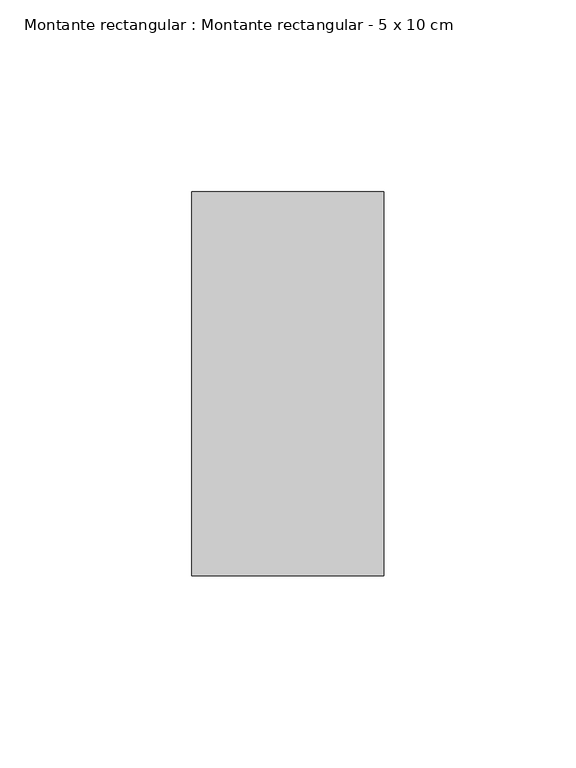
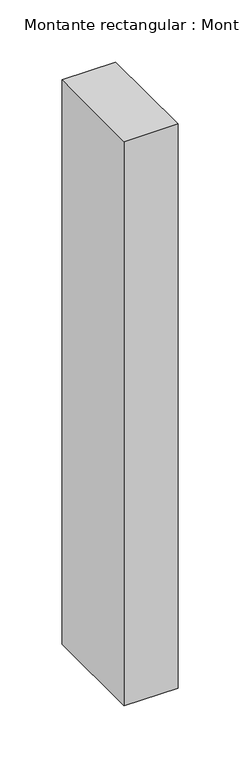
"""IFC4 building model written with IfcOpenShell, lengths in millimetres: member geometry, Montante rectangular : Montante rectangular - 5 x 10 cm."""

from ifc_helpers import new_model, si_unit, frame, origin, place, context, project, spatial, polyline, outline, extrude, source, transform, mapped, element, save


def montante_rectangular_montante_rectangular_5_x_10_cm_50bf92db(model_context):
    return source(origin(), model_context, "Body", "SweptSolid", [
        extrude(outline(polyline([(25.0, 50.0), (25.0, -50.0), (-25.0, -50.0), (-25.0, 50.0), (25.0, 50.0)])), frame((0.0, 0.0, -553.9080145), z_axis=(0.0, 0.0, 1.0), x_axis=(1.0, 0.0, 0.0)), (0.0, 0.0, 1.0), 553.9080145),
    ])


if __name__ == "__main__":
    model = new_model("IFC4")
    model_context = context("Model", 3, world=origin())
    ifc_project = project(units=[si_unit("LENGTHUNIT", "METRE", prefix="MILLI")], contexts=[model_context])
    site = spatial("IfcSite", under=ifc_project)
    building = spatial("IfcBuilding", under=site)
    placement = place(None, origin())
    montante_rectangular_montante_rectangular_5_x_10_cm_shape = montante_rectangular_montante_rectangular_5_x_10_cm_50bf92db(model_context)
    element("IfcMember", 1, ObjectType="Montante rectangular : Montante rectangular - 5 x 10 cm", at=placement, inside=building, context=model_context, shape_type="MappedRepresentation", body=[
        mapped(montante_rectangular_montante_rectangular_5_x_10_cm_shape, transform((0.0, 0.0, 0.0), x_axis=(1.0, 0.0, 0.0), y_axis=(0.0, 1.0, 0.0), z_axis=(0.0, 0.0, 1.0))),
    ])
    save(model, "model.ifc")
